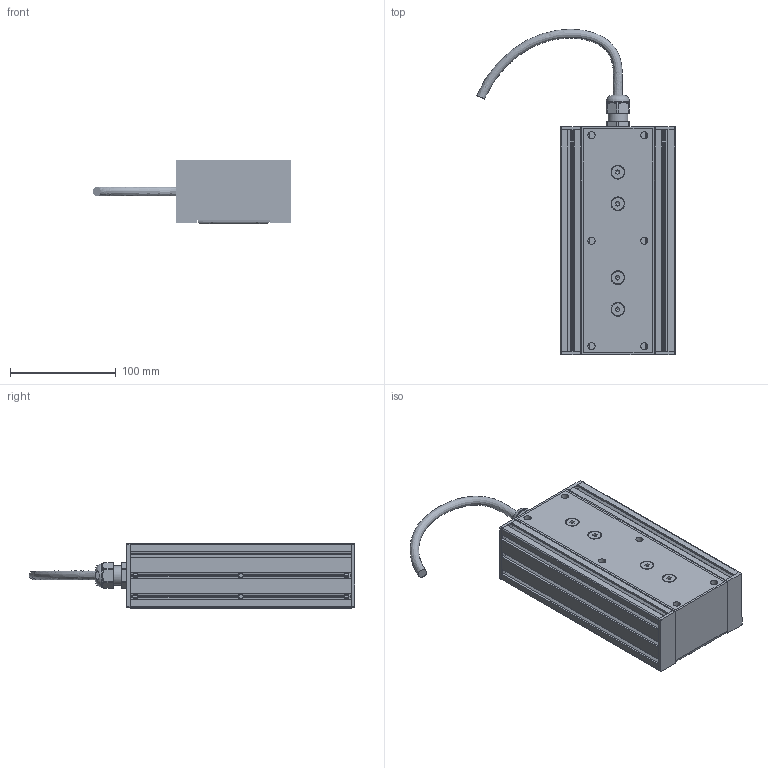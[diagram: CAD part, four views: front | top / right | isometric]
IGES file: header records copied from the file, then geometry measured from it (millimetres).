
Global section: file name: ELFQ-FA-ST002; native system: unknown; preprocessor: unknown; author: unknown; organization: unknown; date: 20240524.125827; units: millimetre
Bounding box: 188.37 x 308.54 x 61 mm (x, y, z)
Volume: 595163.2 mm3; surface area: 401310.7 mm2
Topology: 25 solids, 25 shells, 1910 faces, 10328 edges, 9378 vertices
Faces by surface type: bspline 1411, revolution 499
